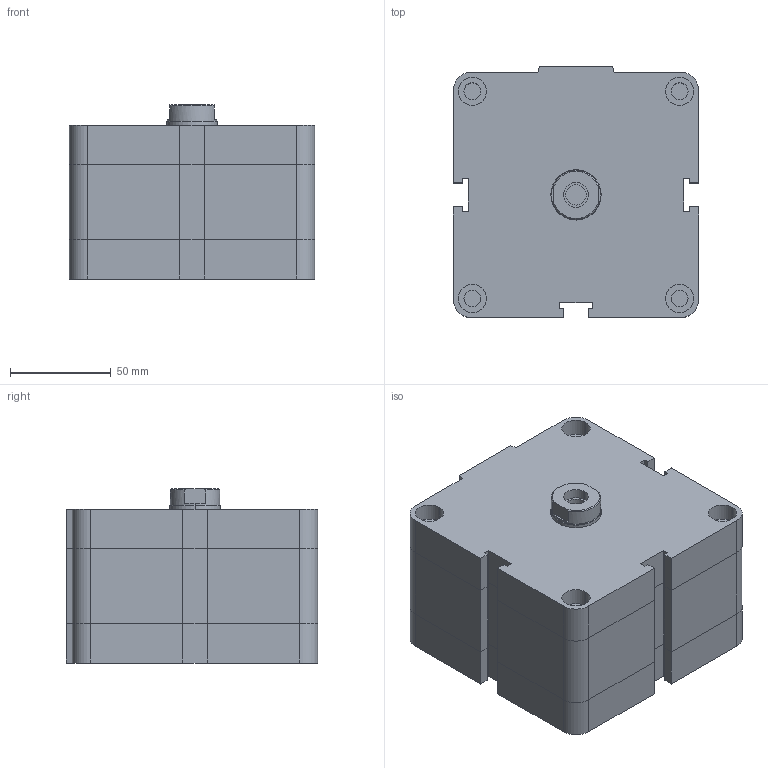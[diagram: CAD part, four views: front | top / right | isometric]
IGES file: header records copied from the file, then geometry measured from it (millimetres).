
Global section: file name: No Iges File Name specified; native system: Autodesk Inventor 2009; preprocessor: AutoDesk Inventor Iges Exporter R2009; author: rivolro1; date: 20081219.155332; units: millimetre
Bounding box: 122 x 125 x 86.5 mm (x, y, z)
Volume: 1101950.2 mm3; surface area: 85141.8 mm2
Topology: 2 solids, 2 shells, 187 faces, 410 edges, 248 vertices
Faces by surface type: plane 112, bspline 39, revolution 16, cylinder 16, cone 4
